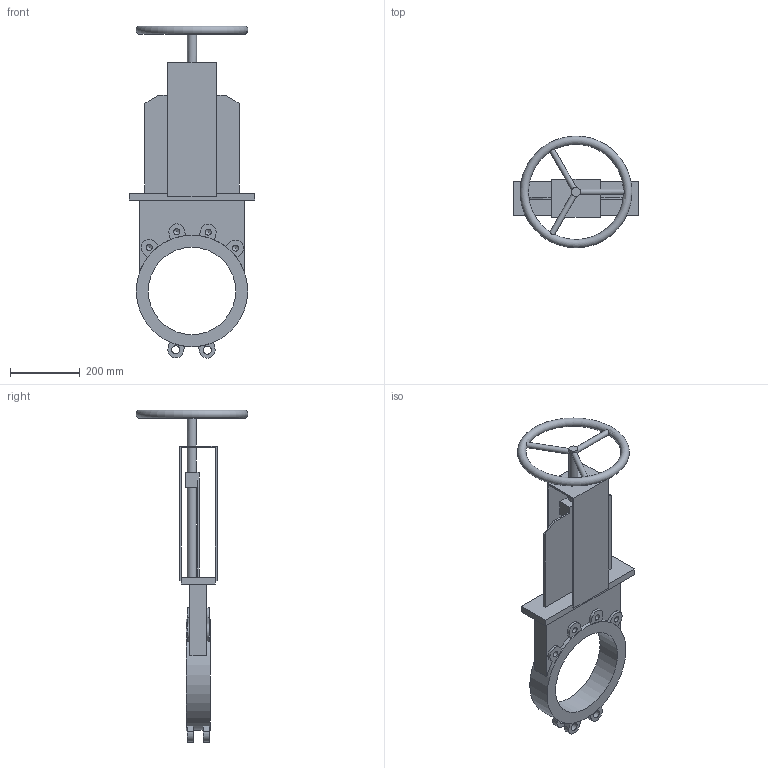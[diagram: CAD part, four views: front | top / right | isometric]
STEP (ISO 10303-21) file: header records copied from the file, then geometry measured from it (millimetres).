
FILE_DESCRIPTION(('STEP AP203'), '1');
FILE_NAME('Çàäâèæêà øèáåðíàÿ ìåæôëàíöåâàÿ K51GV DN250', '', ('UNSPECIFIED'), ('UNSPECIFIED'), 'ASCON STEP Converter 1.6', 'ASCON Math Kernel', '');
FILE_SCHEMA(('CONFIG_CONTROL_DESIGN'));
Length unit declared in the file: millimetre
Bounding box: 360 x 319.7 x 949.84 mm (x, y, z)
Volume: 6689397.3 mm3; surface area: 900436.2 mm2
Topology: 1 solids, 1 shells, 117 faces, 320 edges, 209 vertices
Faces by surface type: plane 76, cylinder 32, cone 8, torus 1
Full cylindrical faces by diameter (mm): 16 x3, 17.294 x8, 23 x4, 26 x3, 250 x1, 319 x1
Entity records: 5672 total; most frequent: CARTESIAN_POINT 1810, DIRECTION 594, ORIENTED_EDGE 560, EDGE_CURVE 280, AXIS2_PLACEMENT_3D 204, VERTEX_POINT 200, LINE 186, VECTOR 186
